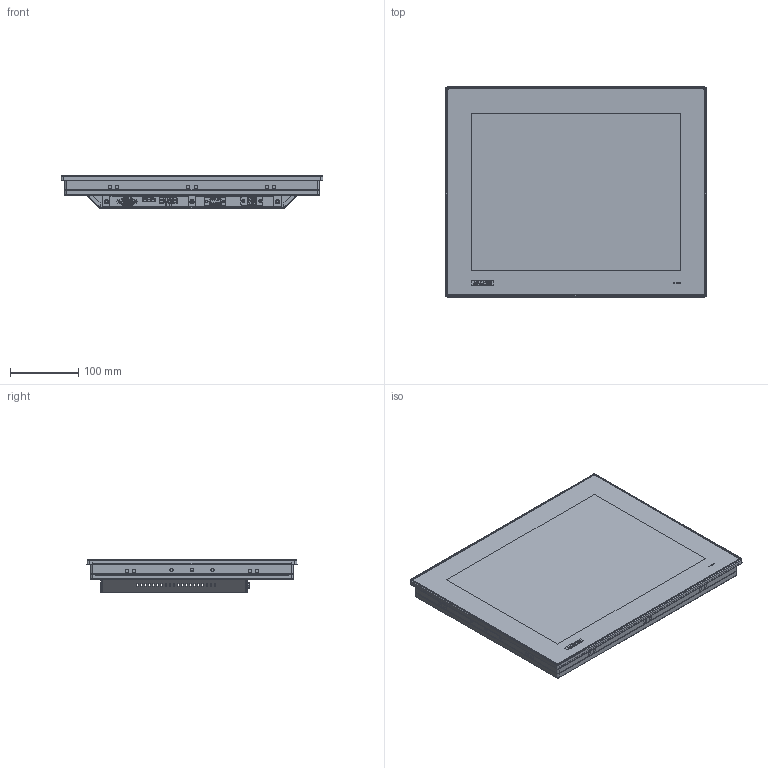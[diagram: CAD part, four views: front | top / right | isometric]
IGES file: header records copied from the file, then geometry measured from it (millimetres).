
Start section: SolidWorks IGES file using analytic representation for surfaces
Global section: file name: C:\Users\rex.liu\Desktop\FPM-7151T\FPM-7151T.IGS; native system: SolidWorks 2013; preprocessor: SolidWorks 2013; author: Rex.Liu; date: 160322.133031; units: millimetre
Bounding box: 383.2 x 307.3 x 48.2 mm (x, y, z)
Surface area: 834193 mm2 (no closed solid volume)
Topology: 0 solids, 0 shells, 3703 faces, 32619 edges, 32587 vertices
Faces by surface type: bspline 3018, revolution 685
